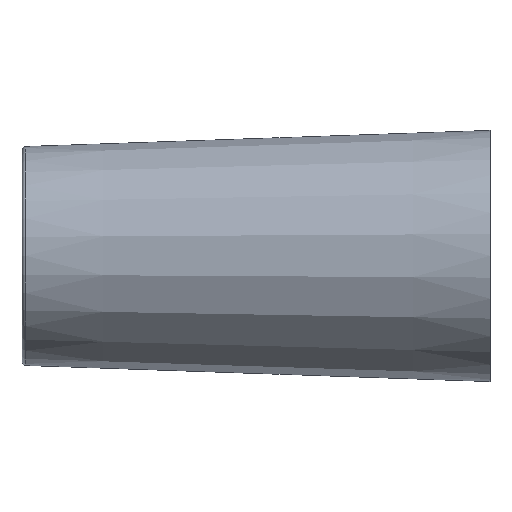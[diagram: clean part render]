
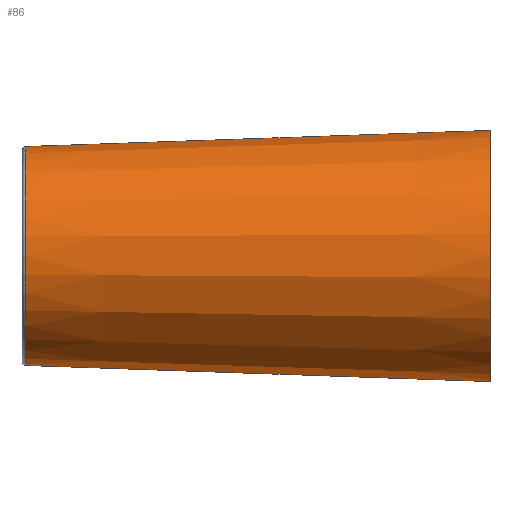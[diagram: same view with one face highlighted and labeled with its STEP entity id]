
A CAD part, top view. The second image highlights one B-rep face of the part: STEP entity #86.
In plain terms, the highlighted conical face has half-angle 1.984 degrees and reference radius 23.9 mm.
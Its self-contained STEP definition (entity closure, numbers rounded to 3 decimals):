
#16=CONICAL_SURFACE('',#99,23.9,1.984);
#23=FACE_BOUND('',#39,.T.);
#31=FACE_OUTER_BOUND('',#38,.T.);
#38=EDGE_LOOP('',(#73));
#39=EDGE_LOOP('',(#74));
#49=CIRCLE('',#96,22.277);
#51=CIRCLE('',#100,25.55);
#56=VERTEX_POINT('',#142);
#58=VERTEX_POINT('',#148);
#63=EDGE_CURVE('',#56,#56,#49,.T.);
#65=EDGE_CURVE('',#58,#58,#51,.T.);
#73=ORIENTED_EDGE('',*,*,#65,.F.);
#74=ORIENTED_EDGE('',*,*,#63,.F.);
#86=ADVANCED_FACE('',(#31,#23),#16,.T.);
#96=AXIS2_PLACEMENT_3D('',#143,#114,#115);
#99=AXIS2_PLACEMENT_3D('',#147,#120,#121);
#100=AXIS2_PLACEMENT_3D('',#149,#122,#123);
#114=DIRECTION('center_axis',(-1.,0.,0.));
#115=DIRECTION('ref_axis',(0.,-1.,0.));
#120=DIRECTION('center_axis',(1.,0.,0.));
#121=DIRECTION('ref_axis',(0.,1.,0.));
#122=DIRECTION('center_axis',(1.,0.,0.));
#123=DIRECTION('ref_axis',(0.,0.,-1.));
#142=CARTESIAN_POINT('',(-94.478,22.277,0.));
#143=CARTESIAN_POINT('Origin',(-94.478,0.,0.));
#147=CARTESIAN_POINT('Origin',(-47.625,0.,0.));
#148=CARTESIAN_POINT('',(0.,25.55,0.));
#149=CARTESIAN_POINT('Origin',(0.,0.,0.));
